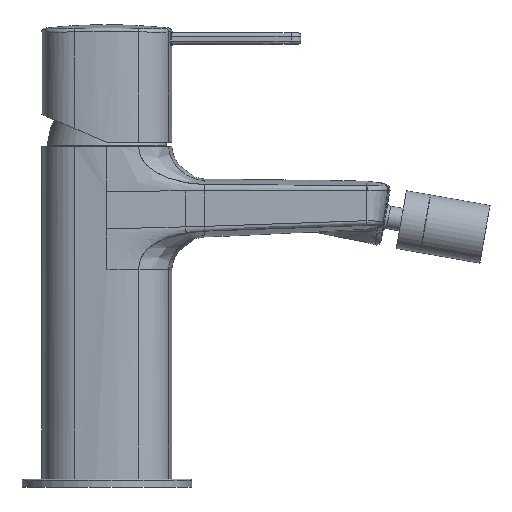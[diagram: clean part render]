
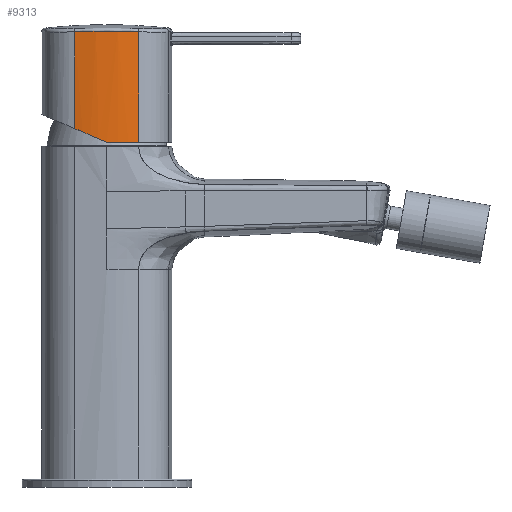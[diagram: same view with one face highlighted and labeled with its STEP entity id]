
A CAD part, left-side view. The second image highlights one B-rep face of the part: STEP entity #9313.
In plain terms, the highlighted cylindrical face has radius 45 mm (diameter 90 mm), a partial arc.
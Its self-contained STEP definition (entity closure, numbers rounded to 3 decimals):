
#3359=CARTESIAN_POINT('',(-18.915,7.324,139.661));
#3360=VERTEX_POINT('',#3359);
#3383=CARTESIAN_POINT('',(-18.915,7.324,109.993));
#3384=VERTEX_POINT('',#3383);
#3392=CARTESIAN_POINT('',(-18.915,7.324,109.993));
#3393=DIRECTION('',(0.0,0.0,1.0));
#3394=VECTOR('',#3393,29.668);
#3395=LINE('',#3392,#3394);
#3396=EDGE_CURVE('',#3384,#3360,#3395,.T.);
#3416=CARTESIAN_POINT('',(-18.915,-12.324,139.661));
#3417=VERTEX_POINT('',#3416);
#3439=CARTESIAN_POINT('',(-18.915,-12.324,105.824));
#3440=VERTEX_POINT('',#3439);
#3441=CARTESIAN_POINT('',(-18.915,-12.324,105.824));
#3442=DIRECTION('',(0.0,0.0,1.0));
#3443=VECTOR('',#3442,33.838);
#3444=LINE('',#3441,#3443);
#3445=EDGE_CURVE('',#3440,#3417,#3444,.T.);
#3966=CARTESIAN_POINT('',(-18.915,-12.324,139.661));
#3967=CARTESIAN_POINT('',(-18.978,-12.041,139.67));
#3968=CARTESIAN_POINT('',(-19.106,-11.439,139.688));
#3969=CARTESIAN_POINT('',(-19.275,-10.562,139.711));
#3970=CARTESIAN_POINT('',(-19.428,-9.673,139.733));
#3971=CARTESIAN_POINT('',(-19.562,-8.783,139.751));
#3972=CARTESIAN_POINT('',(-19.679,-7.89,139.768));
#3973=CARTESIAN_POINT('',(-19.778,-6.995,139.781));
#3974=CARTESIAN_POINT('',(-19.859,-6.098,139.793));
#3975=CARTESIAN_POINT('',(-19.922,-5.2,139.801));
#3976=CARTESIAN_POINT('',(-19.967,-4.3,139.808));
#3977=CARTESIAN_POINT('',(-19.994,-3.4,139.811));
#3978=CARTESIAN_POINT('',(-20.003,-2.5,139.813));
#3979=CARTESIAN_POINT('',(-19.994,-1.6,139.811));
#3980=CARTESIAN_POINT('',(-19.967,-0.7,139.808));
#3981=CARTESIAN_POINT('',(-19.922,0.2,139.801));
#3982=CARTESIAN_POINT('',(-19.859,1.098,139.793));
#3983=CARTESIAN_POINT('',(-19.778,1.995,139.781));
#3984=CARTESIAN_POINT('',(-19.679,2.89,139.768));
#3985=CARTESIAN_POINT('',(-19.562,3.783,139.751));
#3986=CARTESIAN_POINT('',(-19.428,4.672,139.733));
#3987=CARTESIAN_POINT('',(-19.275,5.561,139.711));
#3988=CARTESIAN_POINT('',(-19.106,6.438,139.688));
#3989=CARTESIAN_POINT('',(-18.978,7.041,139.67));
#3990=CARTESIAN_POINT('',(-18.915,7.324,139.661));
#3991=B_SPLINE_CURVE_WITH_KNOTS('',3,(#3966,#3967,#3968,#3969,#3970,#3971,#3972,#3973,#3974,#3975,#3976,#3977,#3978,#3979,#3980,#3981,#3982,#3983,#3984,#3985,#3986,#3987,#3988,#3989,#3990),.UNSPECIFIED.,.F.,.U.,(4,1,1,1,1,1,1,1,1,1,1,1,1,1,1,1,1,1,1,1,1,1,4),(0.0,0.879,1.759,2.639,3.52,4.4,5.281,6.161,7.041,7.922,8.802,9.682,10.563,11.443,12.323,13.204,14.084,14.964,15.845,16.725,17.606,18.486,19.365),.UNSPECIFIED.);
#3992=EDGE_CURVE('',#3417,#3360,#3991,.T.);
#9277=CARTESIAN_POINT('',(25.,-2.5,105.819));
#9278=DIRECTION('',(0.,0.,1.0));
#9279=DIRECTION('',(-0.928,0.372,0.));
#9280=AXIS2_PLACEMENT_3D('',#9277,#9278,#9279);
#9281=CYLINDRICAL_SURFACE('',#9280,45.0);
#9282=CARTESIAN_POINT('',(-20.,-2.602,105.824));
#9283=VERTEX_POINT('',#9282);
#9284=CARTESIAN_POINT('',(25.,-2.5,105.824));
#9285=DIRECTION('',(0.,0.,1.));
#9286=DIRECTION('',(-0.928,-0.372,0.));
#9287=AXIS2_PLACEMENT_3D('',#9284,#9285,#9286);
#9288=CIRCLE('',#9287,45.0);
#9289=EDGE_CURVE('',#9283,#3440,#9288,.T.);
#9290=ORIENTED_EDGE('',*,*,#9289,.T.);
#9291=ORIENTED_EDGE('',*,*,#3445,.T.);
#9292=ORIENTED_EDGE('',*,*,#3992,.T.);
#9293=ORIENTED_EDGE('',*,*,#3396,.F.);
#9294=CARTESIAN_POINT('',(-20.,-2.406,105.863));
#9295=VERTEX_POINT('',#9294);
#9296=CARTESIAN_POINT('',(25.,-2.5,105.824));
#9297=DIRECTION('',(0.,-0.391,0.921));
#9298=DIRECTION('',(0.0,0.921,0.391));
#9299=AXIS2_PLACEMENT_3D('',#9296,#9297,#9298);
#9300=ELLIPSE('',#9299,48.886,45.0);
#9301=EDGE_CURVE('',#3384,#9295,#9300,.T.);
#9302=ORIENTED_EDGE('',*,*,#9301,.T.);
#9303=CARTESIAN_POINT('',(-20.,-2.406,105.863));
#9304=CARTESIAN_POINT('',(-20.,-2.425,105.855));
#9305=CARTESIAN_POINT('',(-20.,-2.489,105.833));
#9306=CARTESIAN_POINT('',(-20.,-2.556,105.824));
#9307=CARTESIAN_POINT('',(-20.,-2.602,105.824));
#9308=B_SPLINE_CURVE_WITH_KNOTS('',3,(#9303,#9304,#9305,#9306,#9307),.UNSPECIFIED.,.F.,.U.,(4,1,4),(0.0,0.062,0.201),.UNSPECIFIED.);
#9309=EDGE_CURVE('',#9295,#9283,#9308,.T.);
#9310=ORIENTED_EDGE('',*,*,#9309,.T.);
#9311=EDGE_LOOP('',(#9290,#9291,#9292,#9293,#9302,#9310));
#9312=FACE_OUTER_BOUND('',#9311,.T.);
#9313=ADVANCED_FACE('',(#9312),#9281,.T.);
